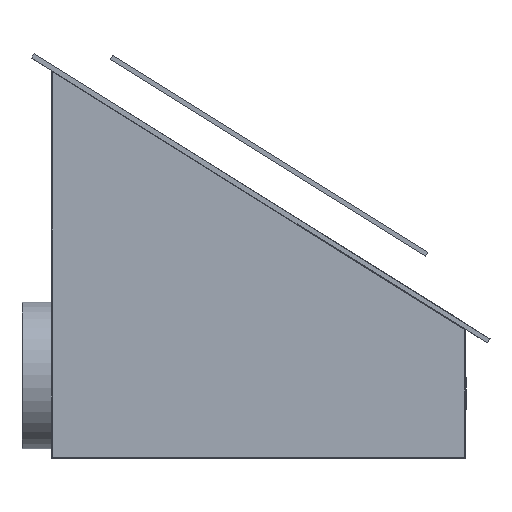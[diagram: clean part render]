
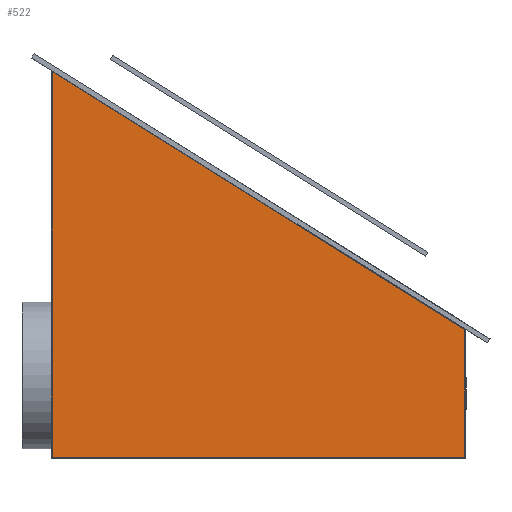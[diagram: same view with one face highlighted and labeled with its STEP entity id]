
A CAD part, left-side view. The second image highlights one B-rep face of the part: STEP entity #522.
In plain terms, the highlighted planar face has unit normal (-1, 0, 0).
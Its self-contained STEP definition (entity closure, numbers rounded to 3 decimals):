
#54 = LINE ( 'NONE', #2694, #2024 ) ;
#99 = LINE ( 'NONE', #988, #10126 ) ;
#157 = DIRECTION ( 'NONE',  ( 0., -0.848, -0.53 ) ) ;
#450 = LINE ( 'NONE', #7179, #9977 ) ;
#522 = ADVANCED_FACE ( 'NONE', ( #9107 ), #6692, .T. ) ;
#725 = CARTESIAN_POINT ( 'NONE',  ( -341.3, 0., 396.5 ) ) ;
#732 = DIRECTION ( 'NONE',  ( 0., 0., 1. ) ) ;
#988 = CARTESIAN_POINT ( 'NONE',  ( -341.3, -423.6, 131.805 ) ) ;
#1052 = EDGE_CURVE ( 'NONE', #5403, #6213, #4905, .T. ) ;
#1446 = EDGE_LOOP ( 'NONE', ( #8769, #2372, #3305, #6292 ) ) ;
#2024 = VECTOR ( 'NONE', #3422, 1000. ) ;
#2323 = DIRECTION ( 'NONE',  ( 0., 0., 1. ) ) ;
#2372 = ORIENTED_EDGE ( 'NONE', *, *, #1052, .F. ) ;
#2694 = CARTESIAN_POINT ( 'NONE',  ( -341.3, -423.6, 0. ) ) ;
#3305 = ORIENTED_EDGE ( 'NONE', *, *, #9947, .F. ) ;
#3367 = VERTEX_POINT ( 'NONE', #10832 ) ;
#3422 = DIRECTION ( 'NONE',  ( 0., 0., -1. ) ) ;
#4905 = LINE ( 'NONE', #725, #9787 ) ;
#5320 = CARTESIAN_POINT ( 'NONE',  ( -341.3, 0., 396.5 ) ) ;
#5403 = VERTEX_POINT ( 'NONE', #10461 ) ;
#5603 = VERTEX_POINT ( 'NONE', #5866 ) ;
#5866 = CARTESIAN_POINT ( 'NONE',  ( -341.3, -423.6, 131.805 ) ) ;
#6213 = VERTEX_POINT ( 'NONE', #5320 ) ;
#6292 = ORIENTED_EDGE ( 'NONE', *, *, #8667, .F. ) ;
#6692 = PLANE ( 'NONE',  #9663 ) ;
#7179 = CARTESIAN_POINT ( 'NONE',  ( -341.3, 0., 0. ) ) ;
#8117 = CARTESIAN_POINT ( 'NONE',  ( -341.3, 0., 0. ) ) ;
#8279 = DIRECTION ( 'NONE',  ( -1., 0., 0. ) ) ;
#8667 = EDGE_CURVE ( 'NONE', #5603, #3367, #54, .T. ) ;
#8769 = ORIENTED_EDGE ( 'NONE', *, *, #9015, .F. ) ;
#9015 = EDGE_CURVE ( 'NONE', #6213, #5603, #99, .T. ) ;
#9107 = FACE_OUTER_BOUND ( 'NONE', #1446, .T. ) ;
#9663 = AXIS2_PLACEMENT_3D ( 'NONE', #8117, #8279, #732 ) ;
#9787 = VECTOR ( 'NONE', #2323, 1000. ) ;
#9947 = EDGE_CURVE ( 'NONE', #3367, #5403, #450, .T. ) ;
#9977 = VECTOR ( 'NONE', #10494, 1000. ) ;
#10126 = VECTOR ( 'NONE', #157, 1000. ) ;
#10461 = CARTESIAN_POINT ( 'NONE',  ( -341.3, 0., 0. ) ) ;
#10494 = DIRECTION ( 'NONE',  ( 0., 1., 0. ) ) ;
#10832 = CARTESIAN_POINT ( 'NONE',  ( -341.3, -423.6, 0. ) ) ;
